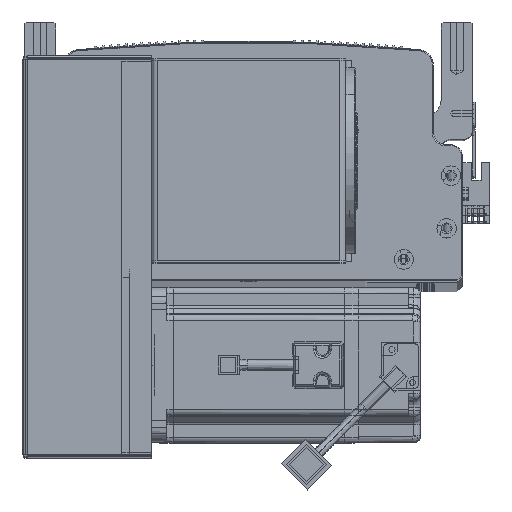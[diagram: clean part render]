
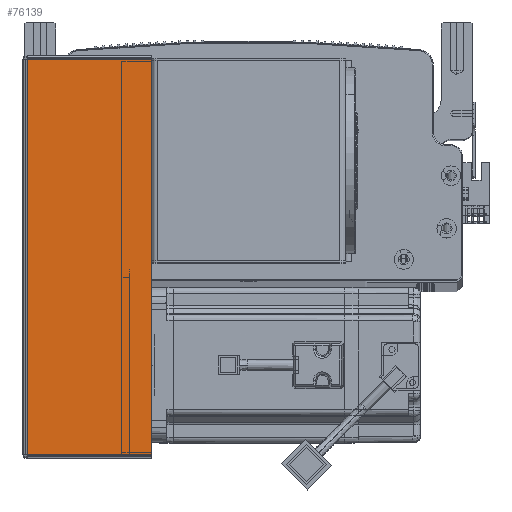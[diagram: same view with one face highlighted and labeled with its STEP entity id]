
A CAD part, top view. The second image highlights one B-rep face of the part: STEP entity #76139.
In plain terms, the highlighted planar face has unit normal (0, 0, 1) as drawn and (0, -1, 0) by its records, which use the part's own axes.
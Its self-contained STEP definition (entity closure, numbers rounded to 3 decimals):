
#3730 = ORIENTED_EDGE ( 'NONE', *, *, #13260, .F. ) ;
#5741 = ORIENTED_EDGE ( 'NONE', *, *, #39969, .F. ) ;
#11943 = CARTESIAN_POINT ( 'NONE',  ( 64.5, -1.5, -203.293 ) ) ;
#11967 = EDGE_CURVE ( 'NONE', #31016, #55719, #46950, .T. ) ;
#13260 = EDGE_CURVE ( 'NONE', #75577, #55719, #46757, .T. ) ;
#18735 = DIRECTION ( 'NONE',  ( 1., 0., 0. ) ) ;
#21442 = CARTESIAN_POINT ( 'NONE',  ( 0., -1.5, 0. ) ) ;
#25422 = CARTESIAN_POINT ( 'NONE',  ( 64.5, -1.5, 0. ) ) ;
#26918 = VECTOR ( 'NONE', #18735, 1000. ) ;
#27564 = EDGE_LOOP ( 'NONE', ( #5741, #37053, #34357, #3730 ) ) ;
#28965 = DIRECTION ( 'NONE',  ( -1., 0., 0. ) ) ;
#31016 = VERTEX_POINT ( 'NONE', #11943 ) ;
#34357 = ORIENTED_EDGE ( 'NONE', *, *, #11967, .T. ) ;
#35710 = FACE_OUTER_BOUND ( 'NONE', #27564, .T. ) ;
#37053 = ORIENTED_EDGE ( 'NONE', *, *, #92406, .T. ) ;
#39969 = EDGE_CURVE ( 'NONE', #43042, #75577, #70305, .T. ) ;
#40728 = DIRECTION ( 'NONE',  ( 0., 0., 1. ) ) ;
#42932 = CARTESIAN_POINT ( 'NONE',  ( 0.737, -1.5, -203.293 ) ) ;
#43042 = VERTEX_POINT ( 'NONE', #42932 ) ;
#44595 = CARTESIAN_POINT ( 'NONE',  ( 64.5, -1.5, -0.707 ) ) ;
#45785 = VECTOR ( 'NONE', #96177, 1000. ) ;
#46036 = LINE ( 'NONE', #93456, #57629 ) ;
#46757 = LINE ( 'NONE', #63066, #26918 ) ;
#46950 = LINE ( 'NONE', #25422, #51470 ) ;
#50791 = DIRECTION ( 'NONE',  ( 0., 1., 0. ) ) ;
#51470 = VECTOR ( 'NONE', #40728, 1000. ) ;
#55719 = VERTEX_POINT ( 'NONE', #44595 ) ;
#57629 = VECTOR ( 'NONE', #93778, 1000. ) ;
#63066 = CARTESIAN_POINT ( 'NONE',  ( 0., -1.5, -0.707 ) ) ;
#65124 = PLANE ( 'NONE',  #69122 ) ;
#67456 = CARTESIAN_POINT ( 'NONE',  ( 0.737, -1.5, 0. ) ) ;
#69122 = AXIS2_PLACEMENT_3D ( 'NONE', #21442, #50791, #28965 ) ;
#70305 = LINE ( 'NONE', #67456, #45785 ) ;
#75577 = VERTEX_POINT ( 'NONE', #94608 ) ;
#76139 = ADVANCED_FACE ( 'NONE', ( #35710 ), #65124, .F. ) ;
#92406 = EDGE_CURVE ( 'NONE', #43042, #31016, #46036, .T. ) ;
#93456 = CARTESIAN_POINT ( 'NONE',  ( 0., -1.5, -203.293 ) ) ;
#93778 = DIRECTION ( 'NONE',  ( 1., 0., 0. ) ) ;
#94608 = CARTESIAN_POINT ( 'NONE',  ( 0.737, -1.5, -0.707 ) ) ;
#96177 = DIRECTION ( 'NONE',  ( 0., 0., 1. ) ) ;
